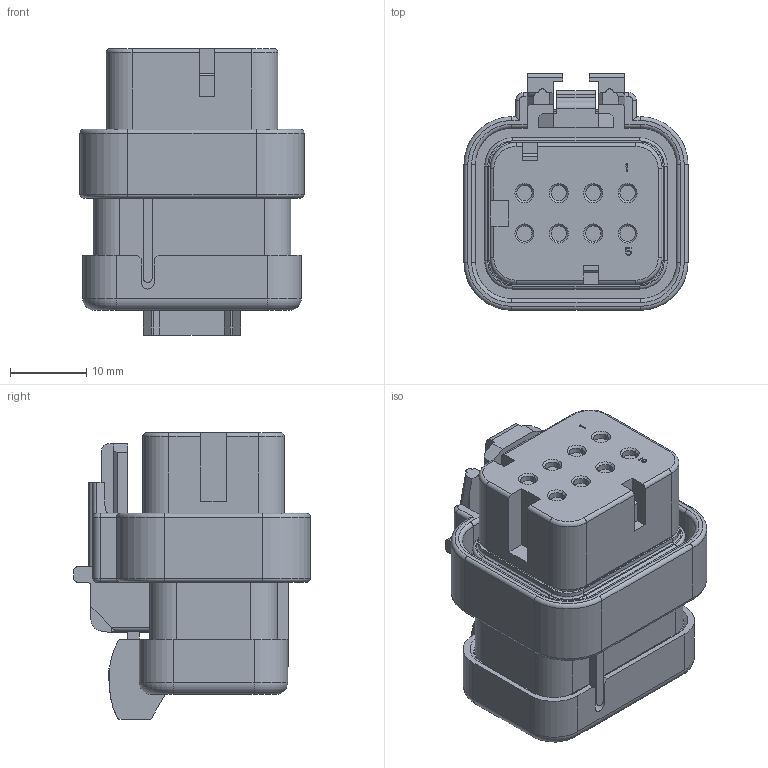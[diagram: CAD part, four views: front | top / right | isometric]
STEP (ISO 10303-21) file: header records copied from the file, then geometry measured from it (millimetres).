
FILE_DESCRIPTION((''),'2;1');
FILE_NAME('C-776494-4','2014-01-10T',('workeradm'),('Tyco Electronics Ltd.'),'PRO/ENGINEER BY PARAMETRIC TECHNOLOGY CORPORATION, 2013050','PRO/ENGINEER BY PARAMETRIC TECHNOLOGY CORPORATION, 2013050','');
FILE_SCHEMA(('AUTOMOTIVE_DESIGN { 1 0 10303 214 1 1 1 1 }'));
Length unit declared in the file: millimetre
Products named in the file (1): C-776494-4
Bounding box: 29.33 x 30.96 x 37.5 mm (x, y, z)
Volume: 17721.9 mm3; surface area: 7746.9 mm2
Topology: 1 solids, 1 shells, 536 faces, 1411 edges, 894 vertices
Faces by surface type: plane 311, cylinder 161, torus 39, cone 24, bspline 1
Entity records: 16679 total; most frequent: CARTESIAN_POINT 3005, DIRECTION 2829, ORIENTED_EDGE 2822, EDGE_CURVE 1411, VECTOR 1027, LINE 1027, AXIS2_PLACEMENT_3D 901, VERTEX_POINT 894
